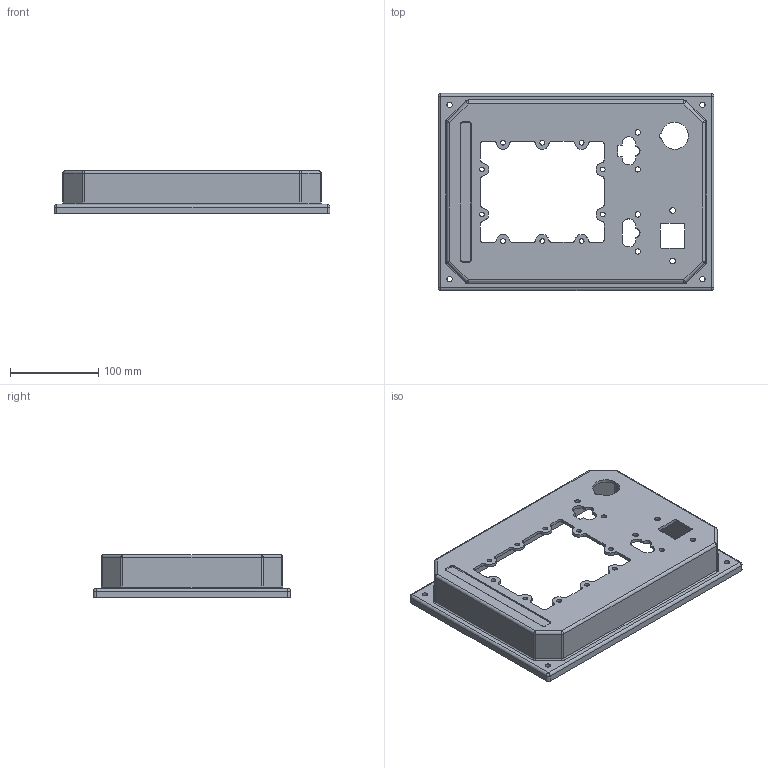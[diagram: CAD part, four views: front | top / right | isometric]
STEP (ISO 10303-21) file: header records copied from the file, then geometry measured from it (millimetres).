
FILE_DESCRIPTION(('FTC-08 geometry with PMI representation and/or presentation','from the NIST MBE PMI Validation and Conformance Testing Project'),'2;1');
FILE_NAME('nist_ftc_08_asme1_ap242-e2.stp','2019-09-24T16:03:21+01:00',(''),(''),'','','');
FILE_SCHEMA (('AP242_MANAGED_MODEL_BASED_3D_ENGINEERING_MIM_LF { 1 0 10303 442 3 1 4 }'));
Products named in the file (1): nist_ftc_08_asme1_rc
Bounding box: 311.61 x 222.71 x 48.26 mm (x, y, z)
Volume: 503633 mm3; surface area: 191705.9 mm2
Topology: 1 solids, 1 shells, 247 faces, 662 edges, 404 vertices
Faces by surface type: cylinder 134, plane 81, sphere 20, torus 12
Full cylindrical faces by diameter (mm): 5.41 x10, 5.791 x2, 6.032 x4, 6.147 x2, 6.35 x2
Entity records: 9930 total; most frequent: DIRECTION 1664, CARTESIAN_POINT 1409, ORIENTED_EDGE 1232, AXIS2_PLACEMENT_3D 663, EDGE_CURVE 616, VERTEX_POINT 396, LINE 338, VECTOR 338
